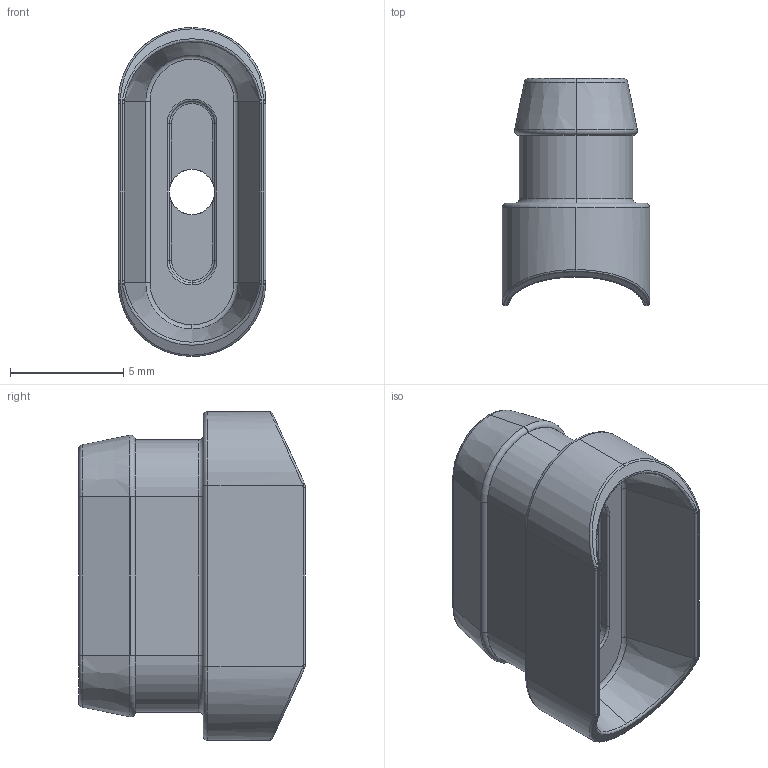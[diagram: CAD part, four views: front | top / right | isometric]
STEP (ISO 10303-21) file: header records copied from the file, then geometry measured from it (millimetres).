
FILE_DESCRIPTION (( 'STEP AP203' ), '1' );
FILE_NAME ('4_14--A_(ind_A).STEP', '2016-07-01T09:34:29', ( '' ), ( '' ), 'SwSTEP 2.0', 'SolidWorks 2016', '' );
FILE_SCHEMA (( 'CONFIG_CONTROL_DESIGN' ));
Length unit declared in the file: millimetre
Products named in the file (1): 4_14--A_(ind_A)
Bounding box: 6.5 x 10 x 14.5 mm (x, y, z)
Volume: 440.5 mm3; surface area: 577.8 mm2
Topology: 1 solids, 1 shells, 122 faces, 279 edges, 155 vertices
Faces by surface type: cylinder 38, plane 28, torus 27, bspline 22, cone 7
Entity records: 3856 total; most frequent: CARTESIAN_POINT 1156, DIRECTION 577, ORIENTED_EDGE 550, EDGE_CURVE 275, AXIS2_PLACEMENT_3D 242, VERTEX_POINT 155, CIRCLE 141, EDGE_LOOP 124
